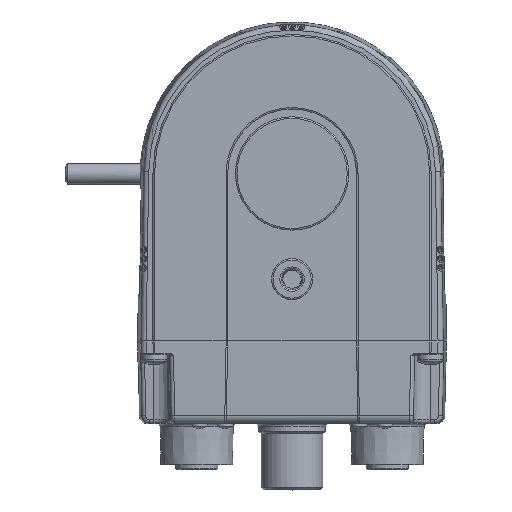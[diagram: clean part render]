
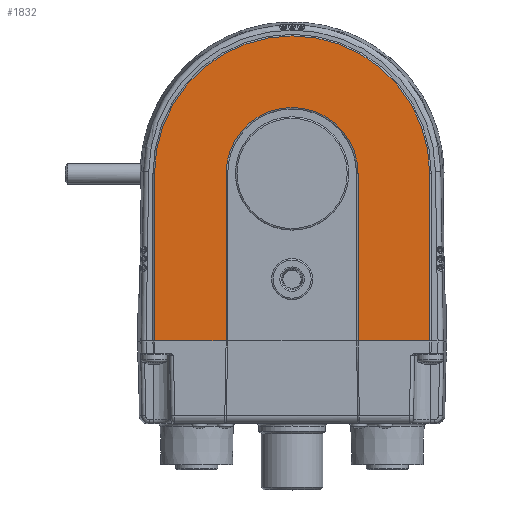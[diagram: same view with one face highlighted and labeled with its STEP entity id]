
A CAD part, top view. The second image highlights one B-rep face of the part: STEP entity #1832.
In plain terms, the highlighted planar face has unit normal (0, 0, 1).
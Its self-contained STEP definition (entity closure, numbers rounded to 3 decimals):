
#1832 = ADVANCED_FACE( '', ( #4620 ), #4621, .T. );
#4620 = FACE_OUTER_BOUND( '', #10177, .T. );
#4621 = PLANE( '', #10178 );
#10177 = EDGE_LOOP( '', ( #20153, #20154, #20155, #20156, #20157, #20158, #20159, #20160 ) );
#10178 = AXIS2_PLACEMENT_3D( '', #20161, #20162, #20163 );
#20153 = ORIENTED_EDGE( '', *, *, #29584, .T. );
#20154 = ORIENTED_EDGE( '', *, *, #29585, .T. );
#20155 = ORIENTED_EDGE( '', *, *, #29586, .T. );
#20156 = ORIENTED_EDGE( '', *, *, #29587, .T. );
#20157 = ORIENTED_EDGE( '', *, *, #29588, .T. );
#20158 = ORIENTED_EDGE( '', *, *, #29589, .T. );
#20159 = ORIENTED_EDGE( '', *, *, #29590, .T. );
#20160 = ORIENTED_EDGE( '', *, *, #29591, .T. );
#20161 = CARTESIAN_POINT( '', ( 0., 0., 50.4 ) );
#20162 = DIRECTION( '', ( 0., 0., 1. ) );
#20163 = DIRECTION( '', ( 1., 0., 0. ) );
#29584 = EDGE_CURVE( '', #34759, #34760, #34761, .T. );
#29585 = EDGE_CURVE( '', #34760, #34762, #34763, .T. );
#29586 = EDGE_CURVE( '', #34762, #34764, #34765, .T. );
#29587 = EDGE_CURVE( '', #34764, #34766, #34767, .T. );
#29588 = EDGE_CURVE( '', #34766, #34768, #34769, .T. );
#29589 = EDGE_CURVE( '', #34768, #34770, #34771, .T. );
#29590 = EDGE_CURVE( '', #34770, #34772, #34773, .T. );
#29591 = EDGE_CURVE( '', #34772, #34759, #34774, .T. );
#34759 = VERTEX_POINT( '', #43406 );
#34760 = VERTEX_POINT( '', #43407 );
#34761 = CIRCLE( '', #43408, 12.8 );
#34762 = VERTEX_POINT( '', #43409 );
#34763 = LINE( '', #43410, #43411 );
#34764 = VERTEX_POINT( '', #43412 );
#34765 = LINE( '', #43413, #43414 );
#34766 = VERTEX_POINT( '', #43415 );
#34767 = LINE( '', #43416, #43417 );
#34768 = VERTEX_POINT( '', #43418 );
#34769 = CIRCLE( '', #43419, 26.7 );
#34770 = VERTEX_POINT( '', #43420 );
#34771 = LINE( '', #43421, #43422 );
#34772 = VERTEX_POINT( '', #43423 );
#34773 = LINE( '', #43424, #43425 );
#34774 = LINE( '', #43426, #43427 );
#43406 = CARTESIAN_POINT( '', ( -12.8, 0., 50.4 ) );
#43407 = CARTESIAN_POINT( '', ( 12.8, 0., 50.4 ) );
#43408 = AXIS2_PLACEMENT_3D( '', #51806, #51807, #51808 );
#43409 = CARTESIAN_POINT( '', ( 12.8, -32.5, 50.4 ) );
#43410 = CARTESIAN_POINT( '', ( 12.8, -32.5, 50.4 ) );
#43411 = VECTOR( '', #51809, 1000. );
#43412 = CARTESIAN_POINT( '', ( 26.7, -32.5, 50.4 ) );
#43413 = CARTESIAN_POINT( '', ( 12.5, -32.5, 50.4 ) );
#43414 = VECTOR( '', #51810, 1000. );
#43415 = CARTESIAN_POINT( '', ( 26.7, 0., 50.4 ) );
#43416 = CARTESIAN_POINT( '', ( 26.7, 0., 50.4 ) );
#43417 = VECTOR( '', #51811, 1000. );
#43418 = CARTESIAN_POINT( '', ( -26.7, 0., 50.4 ) );
#43419 = AXIS2_PLACEMENT_3D( '', #51812, #51813, #51814 );
#43420 = CARTESIAN_POINT( '', ( -26.7, -32.5, 50.4 ) );
#43421 = CARTESIAN_POINT( '', ( -26.7, -32.5, 50.4 ) );
#43422 = VECTOR( '', #51815, 1000. );
#43423 = CARTESIAN_POINT( '', ( -12.8, -32.5, 50.4 ) );
#43424 = CARTESIAN_POINT( '', ( -27., -32.5, 50.4 ) );
#43425 = VECTOR( '', #51816, 1000. );
#43426 = CARTESIAN_POINT( '', ( -12.8, 0., 50.4 ) );
#43427 = VECTOR( '', #51817, 1000. );
#51806 = CARTESIAN_POINT( '', ( 0., 0., 50.4 ) );
#51807 = DIRECTION( '', ( 0., 0., -1. ) );
#51808 = DIRECTION( '', ( 1., 0., 0. ) );
#51809 = DIRECTION( '', ( 0., -1., 0. ) );
#51810 = DIRECTION( '', ( 1., 0., 0. ) );
#51811 = DIRECTION( '', ( 0., 1., 0. ) );
#51812 = CARTESIAN_POINT( '', ( 0., 0., 50.4 ) );
#51813 = DIRECTION( '', ( 0., 0., 1. ) );
#51814 = DIRECTION( '', ( 1., 0., 0. ) );
#51815 = DIRECTION( '', ( 0., -1., 0. ) );
#51816 = DIRECTION( '', ( 1., 0., 0. ) );
#51817 = DIRECTION( '', ( 0., 1., 0. ) );
